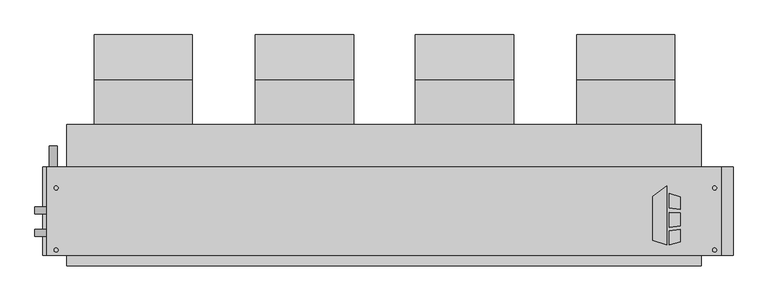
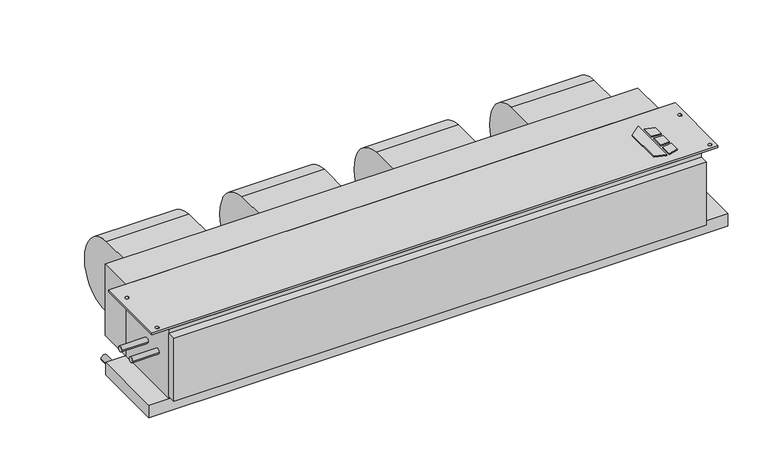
"""IFC4 building model written with IfcOpenShell, lengths in millimetres: proxy geometry, Concealed_Horizontal_Fan_Coil_Unit_-_CHY_-_IEC_-_2-Pipe_Cool-EHeat_LH_2022 : Size 12 - 277v/60Hz/1Ph - 4 Row 10.0kW."""

import ifcopenshell
import ifcopenshell.guid

model = None  # the IFC model being written
_history = None  # IfcOwnerHistory: only IFC2X3 demands one
_inside = {}  # id of a spatial element -> (the spatial element, [elements in it])
_under = {}  # id of a project, library or spatial element -> (it, [spatial elements below it])
_declared = {}  # id of a project -> (the project, [libraries it declares])
_typed = {}  # id of a type object -> (the type object, [elements of that type])
_made_of = {}  # id of a material, layer set ... -> (it, [elements and type objects made of it])


def new_model(schema):
    """Start an empty IFC model of exactly this schema.

    Asked for "IFC4X3", IfcOpenShell would pick the latest addendum, in which some entities
    have other attributes; the version numbers below select the first issue.
    IFC2X3 requires an IfcOwnerHistory on every rooted entity: one is made here for all.
    """
    global model, _history
    if schema == "IFC4X3":
        model = ifcopenshell.file(schema_version=(4, 3, 0, 0))
    else:
        model = ifcopenshell.file(schema=schema)
    _inside.clear()
    _under.clear()
    _declared.clear()
    _typed.clear()
    _made_of.clear()
    _history = None
    if model.schema == "IFC2X3":
        org = make("IfcOrganization", Name="unknown")
        user = make(
            "IfcPersonAndOrganization",
            ThePerson=make("IfcPerson", FamilyName="unknown"),
            TheOrganization=org,
        )
        app = make(
            "IfcApplication",
            ApplicationDeveloper=org,
            Version="unknown",
            ApplicationFullName="unknown",
            ApplicationIdentifier="unknown",
        )
        _history = make(
            "IfcOwnerHistory",
            OwningUser=user,
            OwningApplication=app,
            ChangeAction="ADDED",
            CreationDate=0,
        )
    return model


def make(cls, **values):
    """One entity of the class cls with the attributes given. An attribute that is None is left unset."""
    return model.create_entity(
        cls, **{name: value for name, value in values.items() if value is not None}
    )


def rooted(cls, **values):
    """An entity with a GlobalId (a new one), such as an element, a storey or a relation."""
    return make(cls, GlobalId=ifcopenshell.guid.new(), OwnerHistory=_history, **values)


def si_unit(unit_type, name, prefix=None):
    """IfcSIUnit, for example si_unit("LENGTHUNIT", "METRE", prefix="MILLI")."""
    return make("IfcSIUnit", UnitType=unit_type, Prefix=prefix, Name=name)


def assignment(units):
    """IfcUnitAssignment: the units of a project."""
    return None if units is None else make("IfcUnitAssignment", Units=units)


def point(xyz):
    """IfcCartesianPoint."""
    return None if xyz is None else make("IfcCartesianPoint", Coordinates=xyz)


def direction(xyz):
    """IfcDirection."""
    return None if xyz is None else make("IfcDirection", DirectionRatios=xyz)


def frame(location, z_axis=None, x_axis=None):
    """IfcAxis2Placement3D, a coordinate frame: its origin and axes. An axis left out is left unset."""
    return make(
        "IfcAxis2Placement3D",
        Location=point(location),
        Axis=direction(z_axis),
        RefDirection=direction(x_axis),
    )


def frame_2d(location, x_axis=None):
    """IfcAxis2Placement2D, a coordinate frame in the plane: its origin and x axis."""
    return make(
        "IfcAxis2Placement2D", Location=point(location), RefDirection=direction(x_axis)
    )


def origin():
    """The frame at (0, 0, 0) with its axes left unset."""
    return frame((0.0, 0.0, 0.0))


def origin_with_axes():
    """The frame at (0, 0, 0) with the z axis (0, 0, 1) and the x axis (1, 0, 0) written out."""
    return frame((0.0, 0.0, 0.0), z_axis=(0.0, 0.0, 1.0), x_axis=(1.0, 0.0, 0.0))


def place(relative_to, where):
    """IfcLocalPlacement: puts the frame where relative to a parent placement (None: the world)."""
    return make(
        "IfcLocalPlacement", PlacementRelTo=relative_to, RelativePlacement=where
    )


def context(
    kind, dimensions, precision=None, world=None, true_north=None, identifier=None
):
    """IfcGeometricRepresentationContext, for example the 3D "Model" context."""
    return make(
        "IfcGeometricRepresentationContext",
        ContextIdentifier=identifier,
        ContextType=kind,
        CoordinateSpaceDimension=dimensions,
        Precision=precision,
        WorldCoordinateSystem=world,
        TrueNorth=true_north,
    )


def project(units=None, contexts=None):
    """IfcProject with its units and contexts."""
    return rooted(
        "IfcProject",
        Name="project",
        RepresentationContexts=contexts,
        UnitsInContext=assignment(units),
    )


def spatial(cls, under=None, at=None, **own):
    """A site, building, storey or space (cls), placed at a placement, below another one or the project."""
    s = rooted(cls, ObjectPlacement=at, **own)
    if under is not None:
        _under.setdefault(under.id(), (under, []))[1].append(s)
    return s


def polyline(points):
    """IfcPolyline through the points."""
    return make("IfcPolyline", Points=[point(p) for p in points])


def circle_curve(where, radius):
    """IfcCircle in the frame where."""
    return make("IfcCircle", Position=where, Radius=radius)


def trimmed(basis, trim1, trim2, sense, master):
    """IfcTrimmedCurve: the piece of a basis curve between two trims."""
    return make(
        "IfcTrimmedCurve",
        BasisCurve=basis,
        Trim1=trim1,
        Trim2=trim2,
        SenseAgreement=sense,
        MasterRepresentation=master,
    )


def segment(curve, same_sense, transition):
    """IfcCompositeCurveSegment."""
    return make(
        "IfcCompositeCurveSegment",
        Transition=transition,
        SameSense=same_sense,
        ParentCurve=curve,
    )


def composite_curve(segments, self_intersect=None):
    """IfcCompositeCurve: segments joined end to end."""
    return make("IfcCompositeCurve", Segments=segments, SelfIntersect=self_intersect)


def outline(outer, holes=None, kind="AREA"):
    """IfcArbitraryClosedProfileDef: a profile drawn as a closed curve; with holes, ...WithVoids."""
    if holes is None:
        return make("IfcArbitraryClosedProfileDef", ProfileType=kind, OuterCurve=outer)
    return make(
        "IfcArbitraryProfileDefWithVoids",
        ProfileType=kind,
        OuterCurve=outer,
        InnerCurves=holes,
    )


def extrude(swept, where, along, depth):
    """IfcExtrudedAreaSolid: the profile swept, set in the frame where, extruded along a direction by depth."""
    return make(
        "IfcExtrudedAreaSolid",
        SweptArea=swept,
        Position=where,
        ExtrudedDirection=direction(along),
        Depth=depth,
    )


def shape(context_of_items, identifier, shape_type, items):
    """IfcShapeRepresentation: the items that make up one representation, for example the "Body"."""
    return make(
        "IfcShapeRepresentation",
        ContextOfItems=context_of_items,
        RepresentationIdentifier=identifier,
        RepresentationType=shape_type,
        Items=items,
    )


def source(mapping_origin, context_of_items, identifier, shape_type, items):
    """IfcRepresentationMap: a shape defined once, which mapped items show again and again."""
    return make(
        "IfcRepresentationMap",
        MappingOrigin=mapping_origin,
        MappedRepresentation=shape(context_of_items, identifier, shape_type, items),
    )


def transform(
    local_origin,
    x_axis=None,
    y_axis=None,
    z_axis=None,
    scale=None,
    scale2=None,
    scale3=None,
    uniform=True,
):
    """IfcCartesianTransformationOperator3D, or its non-uniform kind. x_axis, y_axis, z_axis: its Axis1, 2, 3."""
    if uniform:
        return make(
            "IfcCartesianTransformationOperator3D",
            Axis1=direction(x_axis),
            Axis2=direction(y_axis),
            LocalOrigin=point(local_origin),
            Scale=scale,
            Axis3=direction(z_axis),
        )
    return make(
        "IfcCartesianTransformationOperator3DnonUniform",
        Axis1=direction(x_axis),
        Axis2=direction(y_axis),
        LocalOrigin=point(local_origin),
        Scale=scale,
        Axis3=direction(z_axis),
        Scale2=scale2,
        Scale3=scale3,
    )


def mapped(mapping_source, mapping_target):
    """IfcMappedItem: shows the shape of a source again, moved by a transform."""
    return make(
        "IfcMappedItem", MappingSource=mapping_source, MappingTarget=mapping_target
    )


def made_of(thing, what):
    """Note that an element or type object is made of a material, layer set ...; save() writes the relation."""
    if what is not None:
        _made_of.setdefault(what.id(), (what, []))[1].append(thing)
    return thing


def element(
    cls,
    number,
    at=None,
    inside=None,
    cuts=None,
    type_object=None,
    material=None,
    context=None,
    identifier="Body",
    shape_type=None,
    held_by="IfcProductDefinitionShape",
    body=None,
    shapes=None,
    **own,
):
    """One element of the class cls, such as IfcWall. Its Tag is "e" and its number.

    at: its placement. inside: the storey or other place that contains it. cuts: it is an
    opening in that element (IfcRelVoidsElement). A single representation is given by context,
    identifier, shape_type and body (its items); several are given by shapes. held_by: the class
    of the entity that holds the representations. save() writes the other relations.
    """
    e = rooted(cls, Tag="e%d" % number, ObjectPlacement=at, **own)
    if body is not None:
        shapes = [shape(context, identifier, shape_type, body)]
    if shapes is not None:
        e.Representation = make(held_by, Representations=shapes)
    if inside is not None:
        _inside.setdefault(inside.id(), (inside, []))[1].append(e)
    if cuts is not None:
        rooted(
            "IfcRelVoidsElement", RelatingBuildingElement=cuts, RelatedOpeningElement=e
        )
    if type_object is not None:
        _typed.setdefault(type_object.id(), (type_object, []))[1].append(e)
    return made_of(e, material)


def aggregate(whole, parts):
    """IfcRelAggregates: a whole, such as a stair, and the parts it consists of."""
    return rooted("IfcRelAggregates", RelatingObject=whole, RelatedObjects=parts)


def save(model, path):
    """Write the relations noted so far, then the file.

    IfcRelAggregates (storeys below a building ...), IfcRelContainedInSpatialStructure (elements
    in a storey), IfcRelDefinesByType, IfcRelAssociatesMaterial and IfcRelDeclares: one each for
    every whole, place, type object, material and project.
    """
    for whole, parts in _under.values():
        aggregate(whole, parts)
    for where, things in _inside.values():
        rooted(
            "IfcRelContainedInSpatialStructure",
            RelatedElements=things,
            RelatingStructure=where,
        )
    for kind, things in _typed.values():
        rooted("IfcRelDefinesByType", RelatedObjects=things, RelatingType=kind)
    for what, things in _made_of.values():
        rooted("IfcRelAssociatesMaterial", RelatedObjects=things, RelatingMaterial=what)
    for by, libraries in _declared.values():
        rooted("IfcRelDeclares", RelatingContext=by, RelatedDefinitions=libraries)
    model.write(path)


def mechanical_equipment_a1f2efd8(model_context):
    return source(origin(), model_context, "Body", "SweptSolid", [
        extrude(outline(polyline([(798.2019761, -202.5703476), (830.7602728, -177.1330184), (830.7602728, -319.0875), (798.2019761, -308.8679201), (798.2019761, -202.5703476)])), origin_with_axes(), (0.0, 0.0, 1.0), 3.175),
        extrude(outline(polyline([(837.5186058, -230.442352), (837.5186058, -195.9624379), (863.6, -204.1490115), (863.6, -233.6447446), (837.5186058, -230.442352)])), origin_with_axes(), (0.0, 0.0, 1.0), 3.175),
        extrude(outline(polyline([(863.6, -312.0990115), (837.5186058, -319.0875), (837.5186058, -285.8661996), (863.6, -282.3243564), (863.6, -312.0990115)])), origin_with_axes(), (0.0, 0.0, 1.0), 3.175),
        extrude(outline(polyline([(863.6, -242.7263277), (863.6, -273.976483), (837.5186058, -276.717748), (837.5186058, -240.8600378), (863.6, -242.7263277)])), origin_with_axes(), (0.0, 0.0, 1.0), 3.175),
        extrude(outline(composite_curve([segment(trimmed(circle_curve(frame_2d((68.401169, -136.0299844)), 117.3559541), [point((77.7875, -19.05))], [point((185.7375, -138.176))], False, "CARTESIAN"), True, "CONTINUOUS"), segment(trimmed(circle_curve(frame_2d((90.0022663, -136.4250563)), 95.7512443), [point((185.7375, -138.176))], [point((77.7875, -231.394))], False, "CARTESIAN"), True, "CONTINUOUS"), segment(trimmed(circle_curve(frame_2d((89.9711869, -136.6666968)), 95.5076133), [point((77.7875, -231.394))], [point((-5.5245, -138.176))], False, "CARTESIAN"), True, "CONTINUOUS"), segment(trimmed(circle_curve(frame_2d((-24.6059828, -138.4775816)), 19.0838659), [point((-5.5245, -138.176))], [point((-17.7963373, -120.65))], True, "CARTESIAN"), True, "CONTINUOUS"), segment(polyline([(-17.7963373, -120.65), (-30.1625, -120.65), (-30.1625, -19.05), (77.7875, -19.05)]), True, "CONTINUOUS")], self_intersect=False)), frame((615.188, 0.0, 0.0), z_axis=(1.0, 0.0, 0.0), x_axis=(0.0, 1.0, 0.0)), (0.0, 0.0, 1.0), 235.712),
        extrude(outline(composite_curve([segment(trimmed(circle_curve(frame_2d((68.401169, -136.0299844)), 117.3559541), [point((77.7875, -19.05))], [point((185.7375, -138.176))], False, "CARTESIAN"), True, "CONTINUOUS"), segment(trimmed(circle_curve(frame_2d((90.0022663, -136.4250563)), 95.7512443), [point((185.7375, -138.176))], [point((77.7875, -231.394))], False, "CARTESIAN"), True, "CONTINUOUS"), segment(trimmed(circle_curve(frame_2d((89.9711869, -136.6666968)), 95.5076133), [point((77.7875, -231.394))], [point((-5.5245, -138.176))], False, "CARTESIAN"), True, "CONTINUOUS"), segment(trimmed(circle_curve(frame_2d((-24.6059828, -138.4775816)), 19.0838659), [point((-5.5245, -138.176))], [point((-17.7963373, -120.65))], True, "CARTESIAN"), True, "CONTINUOUS"), segment(polyline([(-17.7963373, -120.65), (-30.1625, -120.65), (-30.1625, -19.05), (77.7875, -19.05)]), True, "CONTINUOUS")], self_intersect=False)), frame((-543.687, 0.0, 0.0), z_axis=(1.0, 0.0, 0.0), x_axis=(0.0, 1.0, 0.0)), (0.0, 0.0, 1.0), 235.712),
        extrude(outline(composite_curve([segment(trimmed(circle_curve(frame_2d((68.401169, -136.0299844)), 117.3559541), [point((77.7875, -19.05))], [point((185.7375, -138.176))], False, "CARTESIAN"), True, "CONTINUOUS"), segment(trimmed(circle_curve(frame_2d((90.0022663, -136.4250563)), 95.7512443), [point((185.7375, -138.176))], [point((77.7875, -231.394))], False, "CARTESIAN"), True, "CONTINUOUS"), segment(trimmed(circle_curve(frame_2d((89.9711869, -136.6666968)), 95.5076133), [point((77.7875, -231.394))], [point((-5.5245, -138.176))], False, "CARTESIAN"), True, "CONTINUOUS"), segment(trimmed(circle_curve(frame_2d((-24.6059828, -138.4775816)), 19.0838659), [point((-5.5245, -138.176))], [point((-17.7963373, -120.65))], True, "CARTESIAN"), True, "CONTINUOUS"), segment(polyline([(-17.7963373, -120.65), (-30.1625, -120.65), (-30.1625, -19.05), (77.7875, -19.05)]), True, "CONTINUOUS")], self_intersect=False)), frame((-156.337, 0.0, 0.0), z_axis=(1.0, 0.0, 0.0), x_axis=(0.0, 1.0, 0.0)), (0.0, 0.0, 1.0), 235.712),
        extrude(outline(composite_curve([segment(trimmed(circle_curve(frame_2d((68.401169, -136.0299844)), 117.3559541), [point((77.7875, -19.05))], [point((185.7375, -138.176))], False, "CARTESIAN"), True, "CONTINUOUS"), segment(trimmed(circle_curve(frame_2d((90.0022663, -136.4250563)), 95.7512443), [point((185.7375, -138.176))], [point((77.7875, -231.394))], False, "CARTESIAN"), True, "CONTINUOUS"), segment(trimmed(circle_curve(frame_2d((89.9711869, -136.6666968)), 95.5076133), [point((77.7875, -231.394))], [point((-5.5245, -138.176))], False, "CARTESIAN"), True, "CONTINUOUS"), segment(trimmed(circle_curve(frame_2d((-24.6059828, -138.4775816)), 19.0838659), [point((-5.5245, -138.176))], [point((-17.7963373, -120.65))], True, "CARTESIAN"), True, "CONTINUOUS"), segment(polyline([(-17.7963373, -120.65), (-30.1625, -120.65), (-30.1625, -19.05), (77.7875, -19.05)]), True, "CONTINUOUS")], self_intersect=False)), frame((227.838, 0.0, 0.0), z_axis=(1.0, 0.0, 0.0), x_axis=(0.0, 1.0, 0.0)), (0.0, 0.0, 1.0), 235.712),
        extrude(outline(polyline([(962.025, -131.7625), (962.025, -344.4875), (-657.225, -344.4875), (-657.225, -131.7625), (962.025, -131.7625)]), holes=[composite_curve([segment(trimmed(circle_curve(frame_2d((-635.0, -182.5625)), 4.7625), [point((-639.7625, -182.5625))], [point((-630.2375, -182.5625))], True, "CARTESIAN"), True, "CONTINUOUS"), segment(trimmed(circle_curve(frame_2d((-635.0, -182.5625)), 4.7625), [point((-630.2375, -182.5625))], [point((-639.7625, -182.5625))], True, "CARTESIAN"), True, "CONTINUOUS")], self_intersect=False), composite_curve([segment(trimmed(circle_curve(frame_2d((-635.0, -331.7875)), 4.7625), [point((-639.7625, -331.7875))], [point((-630.2375, -331.7875))], True, "CARTESIAN"), True, "CONTINUOUS"), segment(trimmed(circle_curve(frame_2d((-635.0, -331.7875)), 4.7625), [point((-630.2375, -331.7875))], [point((-639.7625, -331.7875))], True, "CARTESIAN"), True, "CONTINUOUS")], self_intersect=False), composite_curve([segment(trimmed(circle_curve(frame_2d((946.15, -182.5625)), 4.7625), [point((941.3875, -182.5625))], [point((950.9125, -182.5625))], True, "CARTESIAN"), True, "CONTINUOUS"), segment(trimmed(circle_curve(frame_2d((946.15, -182.5625)), 4.7625), [point((950.9125, -182.5625))], [point((941.3875, -182.5625))], True, "CARTESIAN"), True, "CONTINUOUS")], self_intersect=False), composite_curve([segment(trimmed(circle_curve(frame_2d((946.15, -331.7875)), 4.7625), [point((941.3875, -331.7875))], [point((950.9125, -331.7875))], True, "CARTESIAN"), True, "CONTINUOUS"), segment(trimmed(circle_curve(frame_2d((946.15, -331.7875)), 4.7625), [point((950.9125, -331.7875))], [point((941.3875, -331.7875))], True, "CARTESIAN"), True, "CONTINUOUS")], self_intersect=False)]), frame((0.0, 0.0, -6.35), z_axis=(0.0, 0.0, 1.0), x_axis=(1.0, 0.0, 0.0)), (0.0, 0.0, 1.0), 6.35),
        extrude(outline(polyline([(-609.6, -30.1625), (914.4, -30.1625), (914.4, -131.7625), (-609.6, -131.7625), (-609.6, -30.1625)])), frame((0.0, 0.0, -215.9), z_axis=(0.0, 0.0, 1.0), x_axis=(1.0, 0.0, 0.0)), (0.0, 0.0, 1.0), 215.9),
        extrude(outline(composite_curve([segment(trimmed(circle_curve(frame_2d((-241.3, -641.35)), 9.525), [point((-241.3, -650.875))], [point((-241.3, -631.825))], False, "CARTESIAN"), True, "CONTINUOUS"), segment(trimmed(circle_curve(frame_2d((-241.3, -641.35)), 9.525), [point((-241.3, -631.825))], [point((-241.3, -650.875))], False, "CARTESIAN"), True, "CONTINUOUS")], self_intersect=False)), frame((0.0, -131.7625, 0.0), z_axis=(0.0, 1.0, 0.0), x_axis=(0.0, 0.0, 1.0)), (0.0, 0.0, 1.0), 50.8),
        extrude(outline(polyline([(914.4, -369.8875), (-609.6, -369.8875), (-609.6, -344.4875), (914.4, -344.4875), (914.4, -369.8875)])), frame((0.0, 0.0, -209.55), z_axis=(0.0, 0.0, 1.0), x_axis=(1.0, 0.0, 0.0)), (0.0, 0.0, 1.0), 190.5),
        extrude(outline(polyline([(990.6, -131.7625), (990.6, -344.4875), (-666.75, -344.4875), (-666.75, -131.7625), (990.6, -131.7625)])), frame((0.0, 0.0, -254.0), z_axis=(0.0, 0.0, 1.0), x_axis=(1.0, 0.0, 0.0)), (0.0, 0.0, 1.0), 38.1),
        extrude(outline(composite_curve([segment(trimmed(circle_curve(frame_2d((-290.5125, -104.775)), 7.9375), [point((-282.575, -104.775))], [point((-298.45, -104.775))], False, "CARTESIAN"), True, "CONTINUOUS"), segment(trimmed(circle_curve(frame_2d((-290.5125, -104.775)), 7.9375), [point((-298.45, -104.775))], [point((-282.575, -104.775))], False, "CARTESIAN"), True, "CONTINUOUS")], self_intersect=False)), frame((-685.8, 0.0, 0.0), z_axis=(1.0, 0.0, 0.0), x_axis=(0.0, 1.0, 0.0)), (0.0, 0.0, 1.0), 76.2),
        extrude(outline(composite_curve([segment(trimmed(circle_curve(frame_2d((-236.5375, -104.775)), 7.9375), [point((-228.6, -104.775))], [point((-244.475, -104.775))], False, "CARTESIAN"), True, "CONTINUOUS"), segment(trimmed(circle_curve(frame_2d((-236.5375, -104.775)), 7.9375), [point((-244.475, -104.775))], [point((-228.6, -104.775))], False, "CARTESIAN"), True, "CONTINUOUS")], self_intersect=False)), frame((-685.8, 0.0, 0.0), z_axis=(1.0, 0.0, 0.0), x_axis=(0.0, 1.0, 0.0)), (0.0, 0.0, 1.0), 76.2),
        extrude(outline(polyline([(914.4, -344.4875), (-609.6, -344.4875), (-609.6, -131.7625), (914.4, -131.7625), (914.4, -344.4875)])), frame((0.0, 0.0, -215.9), z_axis=(0.0, 0.0, 1.0), x_axis=(1.0, 0.0, 0.0)), (0.0, 0.0, 1.0), 209.55),
    ])


if __name__ == "__main__":
    model = new_model("IFC4")
    model_context = context("Model", 3, world=origin())
    ifc_project = project(units=[si_unit("LENGTHUNIT", "METRE", prefix="MILLI")], contexts=[model_context])
    site = spatial("IfcSite", under=ifc_project)
    building = spatial("IfcBuilding", under=site)
    placement = place(None, origin())
    mechanical_equipment_shape = mechanical_equipment_a1f2efd8(model_context)
    element("IfcBuildingElementProxy", 1, Name="Concealed_Horizontal_Fan_Coil_Unit_-_CHY_-_IEC_-_2-Pipe_Cool-EHeat_LH_2022 : Size 12 - 277v/60Hz/1Ph - 4 Row 10.0kW", ObjectType="Concealed_Horizontal_Fan_Coil_Unit_-_CHY_-_IEC_-_2-Pipe_Cool-EHeat_LH_2022 : Size 12 - 277v/60Hz/1Ph - 4 Row 10.0kW", at=placement, inside=building, context=model_context, shape_type="MappedRepresentation", body=[
        mapped(mechanical_equipment_shape, transform((0.0, 0.0, 0.0), x_axis=(1.0, 0.0, 0.0), y_axis=(0.0, 1.0, 0.0), z_axis=(0.0, 0.0, 1.0))),
    ])
    save(model, "model.ifc")
